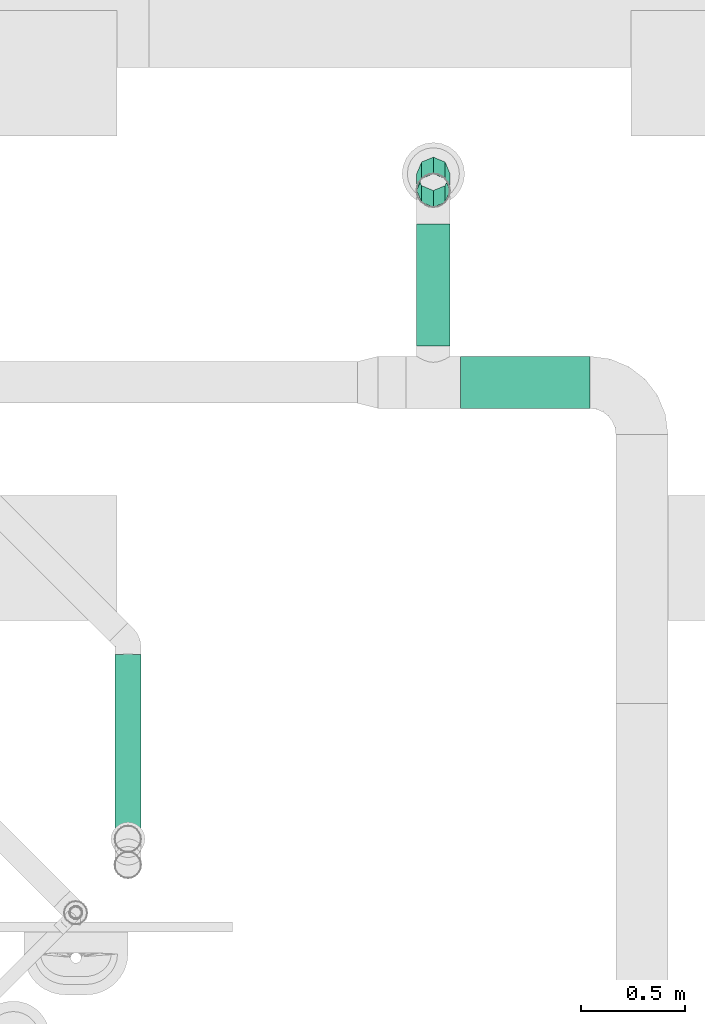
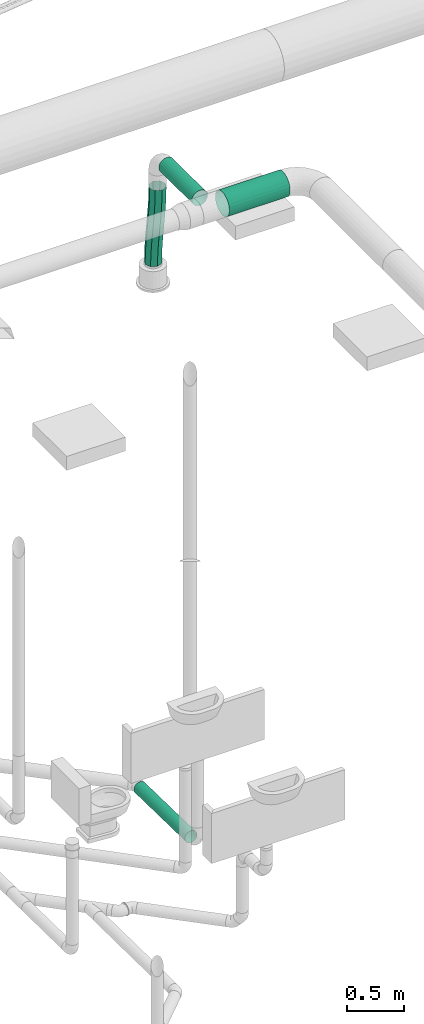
# One storey, part 319 of 374: 4 flow segments.
"""IFC2X3 building model written with IfcOpenShell, lengths in metres."""

import ifcopenshell
import ifcopenshell.guid

model = None  # the IFC model being written
_history = None  # IfcOwnerHistory: only IFC2X3 demands one
_inside = {}  # id of a spatial element -> (the spatial element, [elements in it])
_under = {}  # id of a project, library or spatial element -> (it, [spatial elements below it])
_declared = {}  # id of a project -> (the project, [libraries it declares])
_typed = {}  # id of a type object -> (the type object, [elements of that type])
_made_of = {}  # id of a material, layer set ... -> (it, [elements and type objects made of it])


def new_model(schema):
    """Start an empty IFC model of exactly this schema.

    Asked for "IFC4X3", IfcOpenShell would pick the latest addendum, in which some entities
    have other attributes; the version numbers below select the first issue.
    IFC2X3 requires an IfcOwnerHistory on every rooted entity: one is made here for all.
    """
    global model, _history
    if schema == "IFC4X3":
        model = ifcopenshell.file(schema_version=(4, 3, 0, 0))
    else:
        model = ifcopenshell.file(schema=schema)
    _inside.clear()
    _under.clear()
    _declared.clear()
    _typed.clear()
    _made_of.clear()
    _history = None
    if model.schema == "IFC2X3":
        org = make("IfcOrganization", Name="unknown")
        user = make(
            "IfcPersonAndOrganization",
            ThePerson=make("IfcPerson", FamilyName="unknown"),
            TheOrganization=org,
        )
        app = make(
            "IfcApplication",
            ApplicationDeveloper=org,
            Version="unknown",
            ApplicationFullName="unknown",
            ApplicationIdentifier="unknown",
        )
        _history = make(
            "IfcOwnerHistory",
            OwningUser=user,
            OwningApplication=app,
            ChangeAction="ADDED",
            CreationDate=0,
        )
    return model


def make(cls, **values):
    """One entity of the class cls with the attributes given. An attribute that is None is left unset."""
    return model.create_entity(
        cls, **{name: value for name, value in values.items() if value is not None}
    )


def rooted(cls, **values):
    """An entity with a GlobalId (a new one), such as an element, a storey or a relation."""
    return make(cls, GlobalId=ifcopenshell.guid.new(), OwnerHistory=_history, **values)


def si_unit(unit_type, name, prefix=None):
    """IfcSIUnit, for example si_unit("LENGTHUNIT", "METRE", prefix="MILLI")."""
    return make("IfcSIUnit", UnitType=unit_type, Prefix=prefix, Name=name)


def assignment(units):
    """IfcUnitAssignment: the units of a project."""
    return None if units is None else make("IfcUnitAssignment", Units=units)


def point(xyz):
    """IfcCartesianPoint."""
    return None if xyz is None else make("IfcCartesianPoint", Coordinates=xyz)


def direction(xyz):
    """IfcDirection."""
    return None if xyz is None else make("IfcDirection", DirectionRatios=xyz)


def frame(location, z_axis=None, x_axis=None):
    """IfcAxis2Placement3D, a coordinate frame: its origin and axes. An axis left out is left unset."""
    return make(
        "IfcAxis2Placement3D",
        Location=point(location),
        Axis=direction(z_axis),
        RefDirection=direction(x_axis),
    )


def origin():
    """The frame at (0, 0, 0) with its axes left unset."""
    return frame((0.0, 0.0, 0.0))


def place(relative_to, where):
    """IfcLocalPlacement: puts the frame where relative to a parent placement (None: the world)."""
    return make(
        "IfcLocalPlacement", PlacementRelTo=relative_to, RelativePlacement=where
    )


def context(
    kind, dimensions, precision=None, world=None, true_north=None, identifier=None
):
    """IfcGeometricRepresentationContext, for example the 3D "Model" context."""
    return make(
        "IfcGeometricRepresentationContext",
        ContextIdentifier=identifier,
        ContextType=kind,
        CoordinateSpaceDimension=dimensions,
        Precision=precision,
        WorldCoordinateSystem=world,
        TrueNorth=true_north,
    )


def subcontext(parent, identifier, kind, view, scale=None):
    """IfcGeometricRepresentationSubContext, for example "Body" below "Model"."""
    return make(
        "IfcGeometricRepresentationSubContext",
        ContextIdentifier=identifier,
        ContextType=kind,
        ParentContext=parent,
        TargetScale=scale,
        TargetView=view,
    )


def project(units=None, contexts=None):
    """IfcProject with its units and contexts."""
    return rooted(
        "IfcProject",
        Name="project",
        RepresentationContexts=contexts,
        UnitsInContext=assignment(units),
    )


def spatial(cls, under=None, at=None, **own):
    """A site, building, storey or space (cls), placed at a placement, below another one or the project."""
    s = rooted(cls, ObjectPlacement=at, **own)
    if under is not None:
        _under.setdefault(under.id(), (under, []))[1].append(s)
    return s


def faces_of(points, faces, orient=None, outer=None):
    """IfcFace entities. A face is a list of loops; a loop is a list of indices into points, from 0.

    orient and outer hold one flag for each loop. By default every Orientation is true, the
    first loop of a face is its IfcFaceOuterBound and the others are IfcFaceBound.
    """
    made = []
    for i, loops in enumerate(faces):
        bounds = []
        for j, loop in enumerate(loops):
            is_outer = j == 0 if outer is None else outer[i][j]
            bounds.append(
                make(
                    "IfcFaceOuterBound" if is_outer else "IfcFaceBound",
                    Bound=make("IfcPolyLoop", Polygon=[points[k] for k in loop]),
                    Orientation=True if orient is None else orient[i][j],
                )
            )
        made.append(make("IfcFace", Bounds=bounds))
    return made


def open_shell(faces, orient=None, outer=None):
    """The faces of one IfcOpenShell. surface_model builds it on its shared points."""
    return ("IfcOpenShell", faces, orient, outer)


def surface_model(cls, points, shells):
    """IfcFaceBasedSurfaceModel or IfcShellBasedSurfaceModel (cls): surfaces that need not close."""
    shared = [point(p) for p in points]
    made = [make(c, CfsFaces=faces_of(shared, fs, o, b)) for c, fs, o, b in shells]
    if cls == "IfcFaceBasedSurfaceModel":
        return make(cls, FbsmFaces=made)
    return make(cls, SbsmBoundary=made)


def shape(context_of_items, identifier, shape_type, items):
    """IfcShapeRepresentation: the items that make up one representation, for example the "Body"."""
    return make(
        "IfcShapeRepresentation",
        ContextOfItems=context_of_items,
        RepresentationIdentifier=identifier,
        RepresentationType=shape_type,
        Items=items,
    )


def source(mapping_origin, context_of_items, identifier, shape_type, items):
    """IfcRepresentationMap: a shape defined once, which mapped items show again and again."""
    return make(
        "IfcRepresentationMap",
        MappingOrigin=mapping_origin,
        MappedRepresentation=shape(context_of_items, identifier, shape_type, items),
    )


def transform(
    local_origin,
    x_axis=None,
    y_axis=None,
    z_axis=None,
    scale=None,
    scale2=None,
    scale3=None,
    uniform=True,
):
    """IfcCartesianTransformationOperator3D, or its non-uniform kind. x_axis, y_axis, z_axis: its Axis1, 2, 3."""
    if uniform:
        return make(
            "IfcCartesianTransformationOperator3D",
            Axis1=direction(x_axis),
            Axis2=direction(y_axis),
            LocalOrigin=point(local_origin),
            Scale=scale,
            Axis3=direction(z_axis),
        )
    return make(
        "IfcCartesianTransformationOperator3DnonUniform",
        Axis1=direction(x_axis),
        Axis2=direction(y_axis),
        LocalOrigin=point(local_origin),
        Scale=scale,
        Axis3=direction(z_axis),
        Scale2=scale2,
        Scale3=scale3,
    )


def mapped(mapping_source, mapping_target):
    """IfcMappedItem: shows the shape of a source again, moved by a transform."""
    return make(
        "IfcMappedItem", MappingSource=mapping_source, MappingTarget=mapping_target
    )


def made_of(thing, what):
    """Note that an element or type object is made of a material, layer set ...; save() writes the relation."""
    if what is not None:
        _made_of.setdefault(what.id(), (what, []))[1].append(thing)
    return thing


def element(
    cls,
    number,
    at=None,
    inside=None,
    cuts=None,
    type_object=None,
    material=None,
    context=None,
    identifier="Body",
    shape_type=None,
    held_by="IfcProductDefinitionShape",
    body=None,
    shapes=None,
    **own,
):
    """One element of the class cls, such as IfcWall. Its Tag is "e" and its number.

    at: its placement. inside: the storey or other place that contains it. cuts: it is an
    opening in that element (IfcRelVoidsElement). A single representation is given by context,
    identifier, shape_type and body (its items); several are given by shapes. held_by: the class
    of the entity that holds the representations. save() writes the other relations.
    """
    e = rooted(cls, Tag="e%d" % number, ObjectPlacement=at, **own)
    if body is not None:
        shapes = [shape(context, identifier, shape_type, body)]
    if shapes is not None:
        e.Representation = make(held_by, Representations=shapes)
    if inside is not None:
        _inside.setdefault(inside.id(), (inside, []))[1].append(e)
    if cuts is not None:
        rooted(
            "IfcRelVoidsElement", RelatingBuildingElement=cuts, RelatedOpeningElement=e
        )
    if type_object is not None:
        _typed.setdefault(type_object.id(), (type_object, []))[1].append(e)
    return made_of(e, material)


def aggregate(whole, parts):
    """IfcRelAggregates: a whole, such as a stair, and the parts it consists of."""
    return rooted("IfcRelAggregates", RelatingObject=whole, RelatedObjects=parts)


def save(model, path):
    """Write the relations noted so far, then the file.

    IfcRelAggregates (storeys below a building ...), IfcRelContainedInSpatialStructure (elements
    in a storey), IfcRelDefinesByType, IfcRelAssociatesMaterial and IfcRelDeclares: one each for
    every whole, place, type object, material and project.
    """
    for whole, parts in _under.values():
        aggregate(whole, parts)
    for where, things in _inside.values():
        rooted(
            "IfcRelContainedInSpatialStructure",
            RelatedElements=things,
            RelatingStructure=where,
        )
    for kind, things in _typed.values():
        rooted("IfcRelDefinesByType", RelatedObjects=things, RelatingType=kind)
    for what, things in _made_of.values():
        rooted("IfcRelAssociatesMaterial", RelatedObjects=things, RelatingMaterial=what)
    for by, libraries in _declared.values():
        rooted("IfcRelDeclares", RelatingContext=by, RelatedDefinitions=libraries)
    model.write(path)


model = new_model("IFC2X3")

# Units and contexts
model_context = context("Model", 3, precision=1e-05, world=origin(), true_north=direction((-0.4480736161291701, 0.8939966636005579)))
body_context = subcontext(model_context, "Body", "Model", "MODEL_VIEW")
ifc_project = project(units=[si_unit("LENGTHUNIT", "METRE"), si_unit("AREAUNIT", "SQUARE_METRE"), si_unit("VOLUMEUNIT", "CUBIC_METRE"), si_unit("PLANEANGLEUNIT", "RADIAN"), si_unit("THERMODYNAMICTEMPERATUREUNIT", "KELVIN"), si_unit("MASSUNIT", "GRAM", prefix="KILO"), si_unit("TIMEUNIT", "SECOND")], contexts=[model_context])

# Site, building, storey
site_placement = place(None, origin())
site = spatial("IfcSite", under=ifc_project, at=site_placement, Name="Site 1", CompositionType="ELEMENT")
building_placement = place(site_placement, origin())
building = spatial("IfcBuilding", under=site, at=building_placement, Name="Undefined", CompositionType="ELEMENT")
storey_placement = place(building_placement, origin())
storey = spatial("IfcBuildingStorey", under=building, at=storey_placement, Name="Rez de chauss\x8ee", CompositionType="ELEMENT", Elevation=0.0)

# Flow segments
shared_shape_1 = source(origin(), body_context, "Body", "SurfaceModel", [
    surface_model("IfcFaceBasedSurfaceModel", [(0.0, 0.0163157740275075, 0.0), (0.0, 0.0, 0.0), (0.9022405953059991, 0.0, -1.776356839e-15), (0.9022405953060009, 0.01631577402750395, -1.776356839e-15), (0.0, -0.015759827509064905, -0.004222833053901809), (0.9022405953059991, -0.015759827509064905, -0.004222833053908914), (0.0, -0.029889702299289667, -0.012380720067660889), (0.9022405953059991, -0.029889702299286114, -0.012380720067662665), (0.0, -0.04142669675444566, -0.02391771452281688), (0.9022405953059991, -0.04142669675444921, -0.023917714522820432), (0.0, -0.04958458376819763, -0.038047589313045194), (0.9022405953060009, -0.04958458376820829, -0.03804758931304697), (0.0, -0.053807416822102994, -0.053807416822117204), (0.9022405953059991, -0.053807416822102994, -0.053807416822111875), (0.0, -0.053807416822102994, -0.07012319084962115), (0.9022405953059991, -0.0538074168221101, -0.0701231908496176), (0.0, -0.04958458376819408, -0.08588301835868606), (0.9022405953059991, -0.049584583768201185, -0.08588301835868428), (0.0, -0.04142669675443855, -0.10001289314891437), (0.9022405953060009, -0.041426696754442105, -0.10001289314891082), (0.0, -0.02988970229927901, -0.11154988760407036), (0.9022405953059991, -0.02988970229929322, -0.11154988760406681), (0.0, -0.015759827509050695, -0.11970777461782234), (0.9022405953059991, -0.01575982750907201, -0.11970777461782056), (0.0, 1.4210854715e-14, -0.12393060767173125), (0.9022405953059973, 0.0, -0.1239306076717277), (0.0, 0.016315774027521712, -0.12393060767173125), (0.9022405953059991, 0.016315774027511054, -0.1239306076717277), (0.0, 0.03207560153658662, -0.11970777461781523), (0.9022405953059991, 0.032075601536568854, -0.11970777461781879), (0.0, 0.04620547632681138, -0.11154988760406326), (0.9022405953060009, 0.04620547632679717, -0.11154988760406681), (0.0, 0.05774247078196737, -0.10001289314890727), (0.9022405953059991, 0.057742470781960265, -0.10001289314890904), (0.0, 0.06590035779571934, -0.08588301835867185), (0.9022405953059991, 0.06590035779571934, -0.08588301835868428), (0.0, 0.0701231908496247, -0.07012319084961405), (0.9022405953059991, 0.07012319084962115, -0.0701231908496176), (0.0, 0.0701231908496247, -0.05380741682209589), (0.9022405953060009, 0.07012319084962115, -0.053807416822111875), (0.0, 0.06590035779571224, -0.03804758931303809), (0.9022405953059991, 0.06590035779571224, -0.038047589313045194), (0.0, 0.05774247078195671, -0.023917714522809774), (0.9022405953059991, 0.05774247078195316, -0.023917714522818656), (0.0, 0.04620547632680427, -0.012380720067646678), (0.9022405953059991, 0.04620547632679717, -0.012380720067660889), (0.0, 0.03207560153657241, -0.004222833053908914), (0.9022405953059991, 0.032075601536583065, -0.004222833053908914)], [open_shell([[[0, 1, 2, 3]], [[1, 4, 5, 2]], [[4, 6, 7, 5]], [[6, 8, 9, 7]], [[8, 10, 11, 9]], [[10, 12, 13, 11]], [[12, 14, 15, 13]], [[14, 16, 17, 15]], [[16, 18, 19, 17]], [[18, 20, 21, 19]], [[20, 22, 23, 21]], [[22, 24, 25, 23]], [[24, 26, 27, 25]], [[26, 28, 29, 27]], [[28, 30, 31, 29]], [[30, 32, 33, 31]], [[32, 34, 35, 33]], [[34, 36, 37, 35]], [[36, 38, 39, 37]], [[38, 40, 41, 39]], [[40, 42, 43, 41]], [[42, 44, 45, 43]], [[44, 46, 47, 45]], [[46, 0, 3, 47]]])]),
])
flow_segment_1_placement = place(storey_placement, origin())
element("IfcFlowSegment", 1, at=flow_segment_1_placement, inside=storey, Name="PE-HD tuyau", ObjectType="PE-HD tuyau", context=body_context, shape_type="MappedRepresentation", body=[
    mapped(shared_shape_1, transform((58.808717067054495, 14.651165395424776, -1.0912562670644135), x_axis=(0.0, -0.999800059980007, 0.01999600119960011), y_axis=(0.9914448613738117, 0.002610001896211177, 0.13050009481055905), z_axis=(-0.13052619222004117, 0.019824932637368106, 0.9912466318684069))),
])
shared_shape_2 = source(origin(), body_context, "Body", "SurfaceModel", [
    surface_model("IfcFaceBasedSurfaceModel", [(0.0, 0.03263154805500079, 0.0), (0.0, 0.0, 0.0), (0.6202472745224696, 1.776356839e-15, 0.0), (0.6202472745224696, 0.032631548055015, 0.0), (0.0, -0.031519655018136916, -0.008445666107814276), (0.6202472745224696, -0.031519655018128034, -0.008445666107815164), (0.0, -0.05977940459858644, -0.024761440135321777), (0.6202472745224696, -0.05977940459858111, -0.02476144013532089), (0.0, -0.08285339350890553, -0.047835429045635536), (0.6202472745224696, -0.08285339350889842, -0.04783542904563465), (0.0, -0.09916916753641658, -0.07609517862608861), (0.6202472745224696, -0.09916916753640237, -0.07609517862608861), (0.0, -0.1076148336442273, -0.10761483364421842), (0.6202472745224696, -0.1076148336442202, -0.10761483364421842), (0.0, -0.1076148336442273, -0.14024638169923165), (0.6202472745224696, -0.10761483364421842, -0.14024638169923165), (0.0, -0.09916916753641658, -0.17176603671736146), (0.6202472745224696, -0.09916916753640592, -0.17176603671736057), (0.0, -0.08285339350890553, -0.2000257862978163), (0.6202472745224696, -0.08285339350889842, -0.20002578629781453), (0.0, -0.059779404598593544, -0.22309977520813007), (0.6202472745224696, -0.05977940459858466, -0.22309977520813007), (0.0, -0.03151965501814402, -0.23941554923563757), (0.6202472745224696, -0.03151965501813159, -0.23941554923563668), (0.0, -1.4210854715e-14, -0.24786121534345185), (0.6202472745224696, -1.776356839e-15, -0.24786121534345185), (0.0, 0.03263154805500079, -0.24786121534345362), (0.6202472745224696, 0.032631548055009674, -0.24786121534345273), (0.0, 0.0641512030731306, -0.23941554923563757), (0.6202472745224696, 0.06415120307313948, -0.23941554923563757), (0.0, 0.09241095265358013, -0.22309977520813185), (0.6202472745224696, 0.09241095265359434, -0.22309977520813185), (0.0, 0.11548494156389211, -0.2000257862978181), (0.6202472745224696, 0.11548494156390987, -0.2000257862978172), (0.0, 0.13180071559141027, -0.171766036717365), (0.6202472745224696, 0.1318007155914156, -0.17176603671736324), (0.0, 0.140246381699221, -0.1402463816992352), (0.6202472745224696, 0.14024638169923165, -0.14024638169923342), (0.0, 0.140246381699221, -0.10761483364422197), (0.6202472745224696, 0.14024638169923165, -0.10761483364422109), (0.0, 0.13180071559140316, -0.07609517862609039), (0.6202472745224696, 0.13180071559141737, -0.07609517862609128), (0.0, 0.11548494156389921, -0.04783542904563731), (0.6202472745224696, 0.11548494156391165, -0.04783542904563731), (0.0, 0.09241095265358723, -0.024761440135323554), (0.6202472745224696, 0.09241095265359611, -0.024761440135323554), (0.0, 0.06415120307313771, -0.008445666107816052), (0.6202472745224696, 0.06415120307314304, -0.008445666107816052)], [open_shell([[[0, 1, 2, 3]], [[1, 4, 5, 2]], [[4, 6, 7, 5]], [[6, 8, 9, 7]], [[8, 10, 11, 9]], [[10, 12, 13, 11]], [[12, 14, 15, 13]], [[14, 16, 17, 15]], [[16, 18, 19, 17]], [[18, 20, 21, 19]], [[20, 22, 23, 21]], [[22, 24, 25, 23]], [[24, 26, 27, 25]], [[26, 28, 29, 27]], [[28, 30, 31, 29]], [[30, 32, 33, 31]], [[32, 34, 35, 33]], [[34, 36, 37, 35]], [[36, 38, 39, 37]], [[38, 40, 41, 39]], [[40, 42, 43, 41]], [[42, 44, 45, 43]], [[44, 46, 47, 45]], [[46, 0, 3, 47]]])]),
])
flow_segment_2_placement = place(storey_placement, origin())
element("IfcFlowSegment", 2, at=flow_segment_2_placement, inside=storey, Name="Tube", ObjectType="Tube", context=body_context, shape_type="MappedRepresentation", body=[
    mapped(shared_shape_2, transform((61.03948753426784, 15.987350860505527, 3.920740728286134), x_axis=(-1.0, 0.0, 0.0), y_axis=(7.266545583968e-12, -0.9914448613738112, 0.13052619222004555), z_axis=(0.0, 0.13052619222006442, 0.9914448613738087))),
])
shared_shape_3 = source(origin(), body_context, "Body", "SurfaceModel", [
    surface_model("IfcFaceBasedSurfaceModel", [(0.0, 0.020884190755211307, 0.0), (0.0, 0.0, 0.0), (0.585000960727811, 0.0, 0.0), (0.585000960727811, 0.020884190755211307, 0.0), (0.0, -0.020172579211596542, -0.005405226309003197), (0.585000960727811, -0.020172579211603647, -0.005405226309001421), (0.0, -0.03825881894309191, -0.015847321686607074), (0.585000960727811, -0.03825881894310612, -0.015847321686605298), (0.0, -0.05302617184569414, -0.0306146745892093), (0.585000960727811, -0.05302617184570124, -0.030614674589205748), (0.0, -0.06346826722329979, -0.04870091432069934), (0.585000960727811, -0.0634682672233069, -0.048700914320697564), (0.0, -0.06887349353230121, -0.06887349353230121), (0.585000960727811, -0.06887349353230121, -0.06887349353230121), (0.0, -0.06887349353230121, -0.08975768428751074), (0.585000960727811, -0.06887349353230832, -0.08975768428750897), (0.0, -0.06346826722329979, -0.10993026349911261), (0.585000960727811, -0.0634682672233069, -0.10993026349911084), (0.0, -0.05302617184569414, -0.12801650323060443), (0.585000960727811, -0.05302617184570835, -0.12801650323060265), (0.0, -0.038258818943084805, -0.14278385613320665), (0.585000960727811, -0.03825881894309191, -0.1427838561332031), (0.0, -0.020172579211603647, -0.15322595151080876), (0.585000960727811, -0.020172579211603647, -0.15322595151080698), (0.0, 7.105427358e-15, -0.15863117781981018), (0.585000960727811, 0.0, -0.1586311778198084), (0.0, 0.020884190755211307, -0.15863117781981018), (0.585000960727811, 0.0208841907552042, -0.1586311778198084), (0.0, 0.04105676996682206, -0.15322595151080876), (0.585000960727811, 0.04105676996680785, -0.15322595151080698), (0.0, 0.05914300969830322, -0.1427838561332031), (0.585000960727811, 0.05914300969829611, -0.14278385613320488), (0.0, 0.07391036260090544, -0.12801650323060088), (0.585000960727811, 0.07391036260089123, -0.12801650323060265), (0.0, 0.0843524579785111, -0.10993026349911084), (0.585000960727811, 0.08435245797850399, -0.10993026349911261), (0.0, 0.08975768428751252, -0.08975768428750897), (0.585000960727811, 0.08975768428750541, -0.08975768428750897), (0.0, 0.08975768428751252, -0.06887349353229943), (0.585000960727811, 0.08975768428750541, -0.06887349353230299), (0.0, 0.0843524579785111, -0.048700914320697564), (0.585000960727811, 0.08435245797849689, -0.048700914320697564), (0.0, 0.07391036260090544, -0.030614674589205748), (0.585000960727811, 0.07391036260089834, -0.030614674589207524), (0.0, 0.05914300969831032, -0.015847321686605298), (0.585000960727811, 0.05914300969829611, -0.015847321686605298), (0.0, 0.04105676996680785, -0.005405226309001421), (0.585000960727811, 0.04105676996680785, -0.005405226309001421)], [open_shell([[[0, 1, 2, 3]], [[1, 4, 5, 2]], [[4, 6, 7, 5]], [[6, 8, 9, 7]], [[8, 10, 11, 9]], [[10, 12, 13, 11]], [[12, 14, 15, 13]], [[14, 16, 17, 15]], [[16, 18, 19, 17]], [[18, 20, 21, 19]], [[20, 22, 23, 21]], [[22, 24, 25, 23]], [[24, 26, 27, 25]], [[26, 28, 29, 27]], [[28, 30, 31, 29]], [[30, 32, 33, 31]], [[32, 34, 35, 33]], [[34, 36, 37, 35]], [[36, 38, 39, 37]], [[38, 40, 41, 39]], [[40, 42, 43, 41]], [[42, 44, 45, 43]], [[44, 46, 47, 45]], [[46, 0, 3, 47]]])]),
])
flow_segment_3_placement = place(storey_placement, origin())
element("IfcFlowSegment", 3, at=flow_segment_3_placement, inside=storey, Name="Tube", ObjectType="Tube", context=body_context, shape_type="MappedRepresentation", body=[
    mapped(shared_shape_3, transform((60.30994578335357, 16.129998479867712, 3.877274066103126), x_axis=(0.0, 1.0, 0.0), y_axis=(-0.9914448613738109, 0.0, 0.1305261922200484), z_axis=(0.1305261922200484, 0.0, 0.9914448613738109))),
])
shared_shape_4 = source(origin(), body_context, "Body", "SurfaceModel", [
    surface_model("IfcFaceBasedSurfaceModel", [(0.09425708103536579, 0.0, 0.0), (0.053566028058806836, 0.0457522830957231, 7.105427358e-15), (0.0, 0.0, 0.0), (0.03894014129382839, -0.04725144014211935, -1.1507167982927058e-06), (-0.055412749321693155, -0.04404152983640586, 0.0010358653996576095), (-0.017993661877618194, -0.09250640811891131, 0.001061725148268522), (-0.11243305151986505, -0.08679099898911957, 0.0029113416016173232), (-0.07622095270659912, -0.13616419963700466, 0.0029758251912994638), (-0.17075715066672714, -0.1286221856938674, 0.0054269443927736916), (-0.1354183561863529, -0.17862411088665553, 0.00552834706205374), (-0.2300733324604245, -0.16991458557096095, 0.008379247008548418), (-0.19526249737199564, -0.22028543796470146, 0.008506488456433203), (-0.2900642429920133, -0.21105506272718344, 0.01156098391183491), (-0.25543000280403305, -0.26154747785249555, 0.011697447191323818), (-0.3504083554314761, -0.25243868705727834, 0.014761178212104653), (-0.315597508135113, -0.30280953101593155, 0.014888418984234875), (-0.4107804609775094, -0.29446897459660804, 0.01776518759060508), (-0.3754416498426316, -0.34447088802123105, 0.01786658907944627), (-0.47085117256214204, -0.3375576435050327, 0.0203546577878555), (-0.4346390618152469, -0.38693083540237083, 0.020419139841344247), (-0.5302854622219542, -0.3821237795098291, 0.02230739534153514), (-0.49286637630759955, -0.4305886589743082, 0.022333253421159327), (-0.5887403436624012, -0.42859218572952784, 0.023397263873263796), (-0.5498002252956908, -0.47584364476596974, 0.023396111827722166), (-0.6458082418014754, -0.47734274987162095, 0.023394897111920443), (-0.6051172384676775, -0.5230950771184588, 0.02339489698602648), (0.02506154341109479, 0.0783427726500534, -0.043294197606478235), (-0.02777923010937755, 0.03321146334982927, -0.04329372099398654), (-0.08256193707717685, -0.010327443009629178, -0.04226904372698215), (-0.1390822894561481, -0.052700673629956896, -0.040409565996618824), (-0.19704465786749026, -0.09427143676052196, -0.03790925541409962), (-0.25614215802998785, -0.13541102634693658, -0.03496765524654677), (-0.3160599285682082, -0.17650115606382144, -0.03178973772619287), (-0.3764771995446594, -0.2179351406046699, -0.02858572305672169), (-0.43706799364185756, -0.2601182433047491, -0.025571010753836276), (-0.4975004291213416, -0.30346733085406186, -0.022966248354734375), (-0.5574346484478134, -0.34840968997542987, -0.020997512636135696), (-0.6165195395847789, -0.39538069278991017, -0.019896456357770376), (-0.674312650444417, -0.44475219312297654, -0.019899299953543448), (0.02544116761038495, 0.07868040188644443, -0.10452143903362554), (-0.028124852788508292, 0.03292812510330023, -0.10452143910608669), (-0.08353759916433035, -0.011113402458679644, -0.10348557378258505), (-0.14055790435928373, -0.05386287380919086, -0.10161009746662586), (-0.1988820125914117, -0.09569406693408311, -0.09909449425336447), (-0.25819820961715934, -0.13698647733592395, -0.09614219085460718), (-0.31818913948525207, -0.1781269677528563, -0.09296045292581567), (-0.37853326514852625, -0.21951060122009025, -0.0897602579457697), (-0.43890536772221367, -0.2615408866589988, -0.08675624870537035), (-0.4989760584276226, -0.30462954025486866, -0.08416677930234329), (-0.558410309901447, -0.34919564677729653, -0.08221404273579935), (-0.6168651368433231, -0.3956640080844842, -0.08112417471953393), (-0.6739329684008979, -0.44441451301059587, -0.08112654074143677), (0.05448252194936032, 0.04656739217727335, -0.14781563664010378), (-0.0008344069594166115, -0.0006840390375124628, -0.14781678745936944), (-0.05776820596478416, -0.04593900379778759, -0.14675391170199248), (-0.11599550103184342, -0.08959679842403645, -0.1448398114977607), (-0.17519291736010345, -0.1320567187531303, -0.14228728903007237), (-0.235037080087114, -0.17371806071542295, -0.139309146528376), (-0.2952046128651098, -0.21498011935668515, -0.1361181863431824), (-0.3553721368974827, -0.25624218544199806, -0.13292721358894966), (-0.4152162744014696, -0.29790353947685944, -0.12994904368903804), (-0.474413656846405, -0.34036346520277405, -0.1273964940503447), (-0.5326409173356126, -0.3840212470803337, -0.12548238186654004), (-0.5895746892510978, -0.42927616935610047, -0.12441952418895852), (-0.6448916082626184, -0.47652751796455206, -0.12442073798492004), (0.09517357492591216, 0.0008151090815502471, -0.14781563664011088), (0.03810573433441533, -0.04793547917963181, -0.14781793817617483), (-0.02034911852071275, -0.09440388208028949, -0.14672805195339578), (-0.07978340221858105, -0.13896999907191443, -0.14477532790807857), (-0.1398541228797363, -0.18205864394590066, -0.14218588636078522), (-0.20022624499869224, -0.2240889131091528, -0.139181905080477), (-0.2605703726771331, -0.26547253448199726, -0.1359817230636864), (-0.3205612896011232, -0.3066130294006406, -0.13279997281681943), (-0.3798774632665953, -0.3479054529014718, -0.12984764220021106), (-0.43820154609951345, -0.3897366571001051, -0.12733201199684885), (-0.4952218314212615, -0.4324861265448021, -0.12545652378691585), (-0.5506345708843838, -0.47652762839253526, -0.12442067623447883), (-0.6042006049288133, -0.5222798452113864, -0.12442073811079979), (0.12367805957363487, -0.03177538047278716, -0.10452143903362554), (0.06588496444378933, -0.08114694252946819, -0.10452421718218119), (0.006800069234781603, -0.12811796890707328, -0.10342314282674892), (-0.0531341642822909, -0.17306032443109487, -0.10145442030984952), (-0.11356661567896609, -0.21640939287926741, -0.09884968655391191), (-0.17415741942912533, -0.25859247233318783, -0.09583500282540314), (-0.23457468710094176, -0.3000264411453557, -0.09263100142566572), (-0.2944924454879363, -0.34111657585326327, -0.08945307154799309), (-0.35358993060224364, -0.3822561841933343, -0.0865114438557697), (-0.4115522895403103, -0.423826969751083, -0.08401110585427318), (-0.46807264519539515, -0.4662002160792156, -0.08215161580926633), (-0.522855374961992, -0.50973912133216, -0.08112695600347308), (-0.5756961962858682, -0.5548704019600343, -0.08112654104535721), (0.12329843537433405, -0.032113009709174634, -0.043294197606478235), (0.06623058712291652, -0.0808636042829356, -0.04329649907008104), (0.007775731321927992, -0.1273320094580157, -0.04220661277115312), (-0.051658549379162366, -0.1718981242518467, -0.04025388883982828), (-0.11172926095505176, -0.21498676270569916, -0.037664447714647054), (-0.1721013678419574, -0.25701702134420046, -0.03466046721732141), (-0.23244547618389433, -0.29840062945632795, -0.03146028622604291), (-0.2924363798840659, -0.3395411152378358, -0.02827853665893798), (-0.351752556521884, -0.38083354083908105, -0.02532620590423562), (-0.4100766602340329, -0.4226647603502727, -0.02281057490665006), (-0.46709698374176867, -0.46541425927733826, -0.020935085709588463), (-0.5225097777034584, -0.509455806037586, -0.019899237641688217), (-0.5760758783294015, -0.5552080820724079, -0.019899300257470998)], [open_shell([[[0, 1, 2]], [[2, 3, 0]], [[3, 2, 4]], [[4, 5, 3]], [[5, 4, 6]], [[6, 7, 5]], [[7, 6, 8]], [[8, 9, 7]], [[9, 8, 10]], [[10, 11, 9]], [[11, 10, 12]], [[12, 13, 11]], [[13, 12, 14]], [[14, 15, 13]], [[15, 14, 16]], [[16, 17, 15]], [[17, 16, 18]], [[18, 19, 17]], [[19, 18, 20]], [[20, 21, 19]], [[21, 20, 22]], [[22, 23, 21]], [[23, 22, 24]], [[24, 25, 23]], [[1, 26, 27]], [[27, 2, 1]], [[2, 27, 28]], [[28, 4, 2]], [[4, 28, 29]], [[29, 6, 4]], [[6, 29, 30]], [[30, 8, 6]], [[8, 30, 31]], [[31, 10, 8]], [[10, 31, 32]], [[32, 12, 10]], [[12, 32, 33]], [[33, 14, 12]], [[14, 33, 34]], [[34, 16, 14]], [[16, 34, 35]], [[35, 18, 16]], [[18, 35, 36]], [[36, 20, 18]], [[20, 36, 37]], [[37, 22, 20]], [[22, 37, 38]], [[38, 24, 22]], [[26, 39, 40]], [[40, 27, 26]], [[27, 40, 41]], [[41, 28, 27]], [[28, 41, 42]], [[42, 29, 28]], [[29, 42, 43]], [[43, 30, 29]], [[30, 43, 44]], [[44, 31, 30]], [[31, 44, 45]], [[45, 32, 31]], [[32, 45, 46]], [[46, 33, 32]], [[33, 46, 47]], [[47, 34, 33]], [[34, 47, 48]], [[48, 35, 34]], [[35, 48, 49]], [[49, 36, 35]], [[36, 49, 50]], [[50, 37, 36]], [[37, 50, 51]], [[51, 38, 37]], [[39, 52, 53]], [[53, 40, 39]], [[40, 53, 54]], [[54, 41, 40]], [[41, 54, 55]], [[55, 42, 41]], [[42, 55, 56]], [[56, 43, 42]], [[43, 56, 57]], [[57, 44, 43]], [[44, 57, 58]], [[58, 45, 44]], [[45, 58, 59]], [[59, 46, 45]], [[46, 59, 60]], [[60, 47, 46]], [[47, 60, 61]], [[61, 48, 47]], [[48, 61, 62]], [[62, 49, 48]], [[49, 62, 63]], [[63, 50, 49]], [[50, 63, 64]], [[64, 51, 50]], [[52, 65, 66]], [[66, 53, 52]], [[53, 66, 67]], [[67, 54, 53]], [[54, 67, 68]], [[68, 55, 54]], [[55, 68, 69]], [[69, 56, 55]], [[56, 69, 70]], [[70, 57, 56]], [[57, 70, 71]], [[71, 58, 57]], [[58, 71, 72]], [[72, 59, 58]], [[59, 72, 73]], [[73, 60, 59]], [[60, 73, 74]], [[74, 61, 60]], [[61, 74, 75]], [[75, 62, 61]], [[62, 75, 76]], [[76, 63, 62]], [[63, 76, 77]], [[77, 64, 63]], [[65, 78, 79]], [[79, 66, 65]], [[66, 79, 80]], [[80, 67, 66]], [[67, 80, 81]], [[81, 68, 67]], [[68, 81, 82]], [[82, 69, 68]], [[69, 82, 83]], [[83, 70, 69]], [[70, 83, 84]], [[84, 71, 70]], [[71, 84, 85]], [[85, 72, 71]], [[72, 85, 86]], [[86, 73, 72]], [[73, 86, 87]], [[87, 74, 73]], [[74, 87, 88]], [[88, 75, 74]], [[75, 88, 89]], [[89, 76, 75]], [[76, 89, 90]], [[90, 77, 76]], [[78, 91, 92]], [[92, 79, 78]], [[79, 92, 93]], [[93, 80, 79]], [[80, 93, 94]], [[94, 81, 80]], [[81, 94, 95]], [[95, 82, 81]], [[82, 95, 96]], [[96, 83, 82]], [[83, 96, 97]], [[97, 84, 83]], [[84, 97, 98]], [[98, 85, 84]], [[85, 98, 99]], [[99, 86, 85]], [[86, 99, 100]], [[100, 87, 86]], [[87, 100, 101]], [[101, 88, 87]], [[88, 101, 102]], [[102, 89, 88]], [[89, 102, 103]], [[103, 90, 89]], [[91, 0, 3]], [[3, 92, 91]], [[92, 3, 5]], [[5, 93, 92]], [[93, 5, 7]], [[7, 94, 93]], [[94, 7, 9]], [[9, 95, 94]], [[95, 9, 11]], [[11, 96, 95]], [[96, 11, 13]], [[13, 97, 96]], [[97, 13, 15]], [[15, 98, 97]], [[98, 15, 17]], [[17, 99, 98]], [[99, 17, 19]], [[19, 100, 99]], [[100, 19, 21]], [[21, 101, 100]], [[101, 21, 23]], [[23, 102, 101]], [[102, 23, 25]], [[25, 103, 102]]])]),
])
flow_segment_4_placement = place(storey_placement, origin())
element("IfcFlowSegment", 4, at=flow_segment_4_placement, inside=storey, Name="Tube flexible", ObjectType="Tube flexible", context=body_context, shape_type="MappedRepresentation", body=[
    mapped(shared_shape_4, transform((60.232671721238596, 16.933095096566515, 3.4095708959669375), x_axis=(-0.2485909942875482, -0.6163532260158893, 0.7472022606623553), y_axis=(0.2910462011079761, 0.6882384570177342, 0.6645449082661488), z_axis=(-0.9238477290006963, 0.38267025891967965, 0.008297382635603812))),
])

save(model, "model.ifc")
